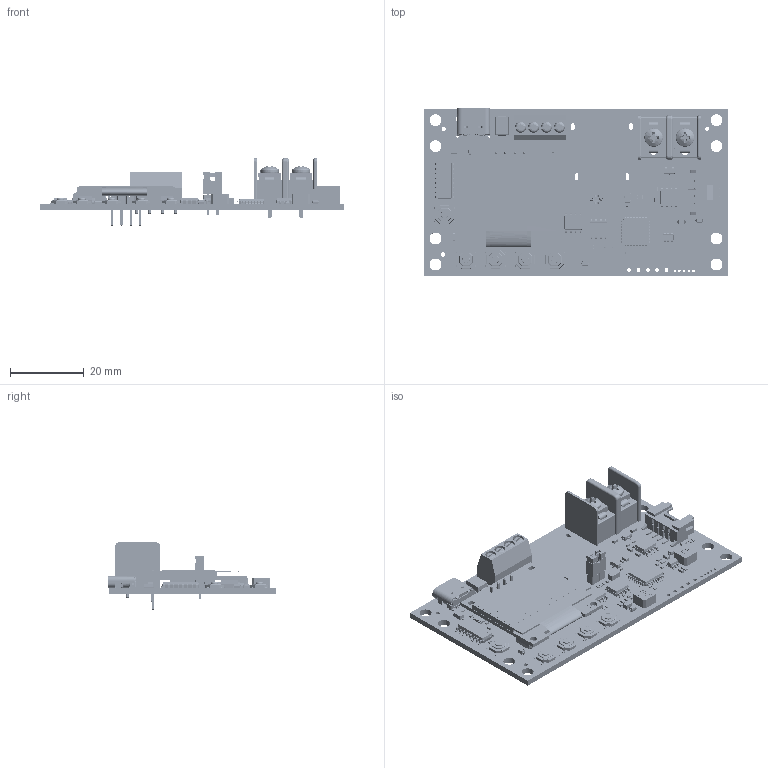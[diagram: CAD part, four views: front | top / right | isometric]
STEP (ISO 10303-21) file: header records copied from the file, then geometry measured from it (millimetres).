
FILE_DESCRIPTION(('FreeCAD Model'),'2;1');
FILE_NAME('Open CASCADE Shape Model','2023-11-27T10:41:43',(''),(''), 'Open CASCADE STEP processor 7.6','FreeCAD','Unknown');
FILE_SCHEMA(('AUTOMOTIVE_DESIGN { 1 0 10303 214 1 1 1 1 }'));
Length unit declared in the file: millimetre
Products named in the file (86): k-thermocouple-thermometer; Local_CS_b1a9; Board_Geoms_b1a9; Pcb_b1a9; PCB_Sketch_b1a9; botSilks_e38d; topSilks_ee59; Step_Models_b1a9; Top_b1a9; C24_C_0805_2012Metric_766fd9399bf7; FB3_L_0603_1608Metric_3910de4d7e62; SW4_TS-1187A-B-A-B007_fc4149a60197; TS-1187A-B-A-B; TS-1187A-B-A-B001; TS-1187A-B-A-B002; TS-1187A-B-A-B003; TS-1187A-B-A-B004; TS-1187A-B-A-B005; TS-1187A-B-A-B006; C14_C_0402_1005Metric_5b4e6ae67a10; D9_D_SMB_bd62f85b833b; U9_SOIC_8_39x49mm_P127mm_cd01ce48260e; R11_R_0402_1005Metric_1c87e6ff0e20; R25_R_0603_1608Metric_222b2fbd86f0; R15_R_1206_3216Metric_79494b974795; Y1_Crystal_SMD_3225-4Pin_3.2x2.5mm_a963a85c4667; J5_User_Library-128x64I2COLEDDisplayAdafruit004_1affc5419bcd; User_Library-128x64I2COLEDDisplayAdafruit; User_Library-128x64I2COLEDDisplayAdafruit001; User_Library-128x64I2COLEDDisplayAdafruit002; User_Library-128x64I2COLEDDisplayAdafruit003; U3_LQFP_32_7x7mm_P08mm_5f1c1f0b0b08; J12_User Library-KF350-2P_031918f9baff; KF850-1P; KF850 Body; KF850 PIN; M2 Screw_91200A102; M2 Screw_91200A100; M2 Screw_91200A101; KF850-1P001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
Assembly tree (148 placements, depth 7):
  k-thermocouple-thermometer
    Local_CS_b1a9
    Board_Geoms_b1a9
      Pcb_b1a9
      PCB_Sketch_b1a9
      botSilks_e38d
      topSilks_ee59
    Step_Models_b1a9
      Top_b1a9
        C24_C_0805_2012Metric_766fd9399bf7
        FB3_L_0603_1608Metric_3910de4d7e62  x3
        SW4_TS-1187A-B-A-B007_fc4149a60197  x5
          TS-1187A-B-A-B
          TS-1187A-B-A-B001
          TS-1187A-B-A-B002
          TS-1187A-B-A-B003
          TS-1187A-B-A-B004
          TS-1187A-B-A-B005
          TS-1187A-B-A-B006
        C14_C_0402_1005Metric_5b4e6ae67a10  x16
        D9_D_SMB_bd62f85b833b  x3
        U9_SOIC_8_39x49mm_P127mm_cd01ce48260e  x3
        R11_R_0402_1005Metric_1c87e6ff0e20  x12
        R25_R_0603_1608Metric_222b2fbd86f0  x5
        R15_R_1206_3216Metric_79494b974795
        Y1_Crystal_SMD_3225-4Pin_3.2x2.5mm_a963a85c4667
        J5_User_Library-128x64I2COLEDDisplayAdafruit004_1affc5419bcd
          User_Library-128x64I2COLEDDisplayAdafruit
          User_Library-128x64I2COLEDDisplayAdafruit001
          User_Library-128x64I2COLEDDisplayAdafruit002
          User_Library-128x64I2COLEDDisplayAdafruit003
        U3_LQFP_32_7x7mm_P08mm_5f1c1f0b0b08
        J12_User Library-KF350-2P_031918f9baff  x2
          KF850-1P
            KF850 Body
            KF850 PIN
            M2 Screw_91200A102
              M2 Screw_91200A100
              M2 Screw_91200A101
          KF850-1P001
            KF850 Body
            KF850 PIN
            M2 Screw_91200A105
              M2 Screw_91200A100
              M2 Screw_91200A101
        D4_SOT_23_f80941f48d78  x3
        D11_D_SOD_323_64bfbba10853  x5
        D7_D_SOD_123F_a5504504071c
        U5_SOT_23_6_a68128787b36  x2
        J11_PinHeader_1x02_P254mm_Vertical_adb7ebbe8992
        J11_Assem1_adb7ebbe8992[2]
          60900213421
          60900213421_Housing
        U6_SOIC_16_39x99mm_P127mm_0c7f076b9294
        L2_14FDEDC2-4D3D-4B38-8F9D-BB3C86C13EEA_f209d96a3309  x2
        J1_Grove_Connector_(flat)_e33f9d7be863
        C6_C_0603_1608Metric_5e5efba104b8  x4
        J7_698B116-164-211_cd46aa40c986
          Insulator 698B116-X64-211
          Contacts 698B116-X64-231
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Bounding box: 82 x 45.2 x 18.27 mm (x, y, z)
Volume: 10381.2 mm3; surface area: 19295.3 mm2
Topology: 159 solids, 620 shells, 9132 faces, 41698 edges, 33351 vertices
Faces by surface type: plane 5774, cylinder 2511, bspline 576, sphere 120, torus 90, cone 59, extrusion 2
Full cylindrical faces by diameter (mm): 0.5 x1, 0.6 x4, 0.65 x7, 1.02 x7, 1.05 x4, 1.1 x4, 1.152 x3, 1.8 x2, 3.2 x8
Entity records: 334214 total; most frequent: CARTESIAN_POINT 72835, ORIENTED_EDGE 45668, DIRECTION 43751, EDGE_CURVE 32180, VECTOR 28791, LINE 28789, VERTEX_POINT 27396, AXIS2_PLACEMENT_3D 7480
